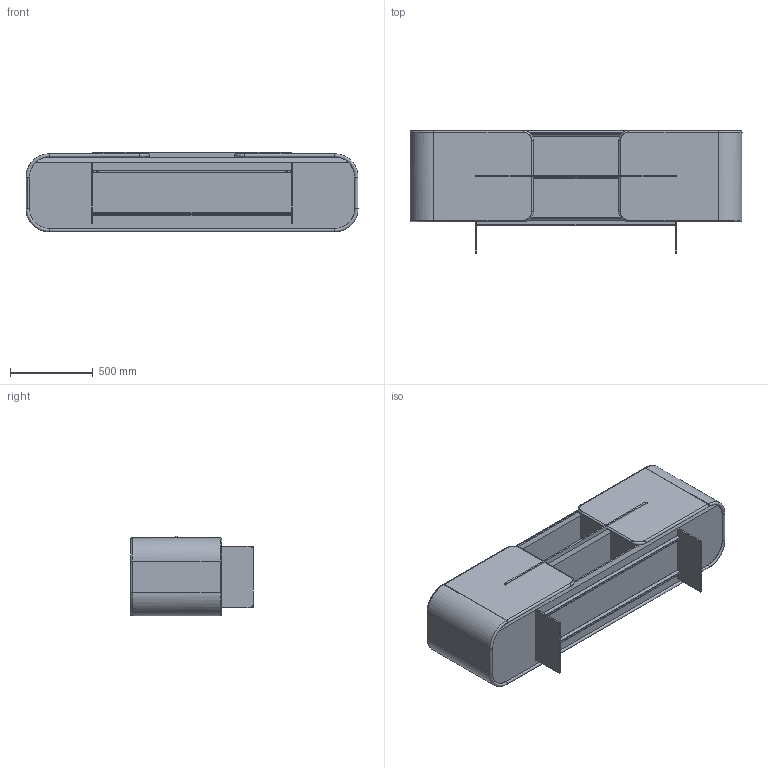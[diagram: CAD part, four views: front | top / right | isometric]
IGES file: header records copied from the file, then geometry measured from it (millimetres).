
Start section: SolidWorks IGES file using analytic representation for surfaces
Global section: file name: Y:\eforma\TECNICO\SOLIDWORKS\E-FORMA\6-MADIE\NINFA\NI1BR_Madia Ninfa_200x48x73.IGS; native system: SolidWorks 2022; preprocessor: SolidWorks 2022; author: eforma.tech; date: 240802.111123; units: millimetre
Bounding box: 2000 x 740.08 x 480 mm (x, y, z)
Volume: 11205525.4 mm3; surface area: 13175205.7 mm2
Topology: 27 solids, 27 shells, 634 faces, 2926 edges, 2510 vertices
Faces by surface type: plane 266, revolution 264, bspline 104
